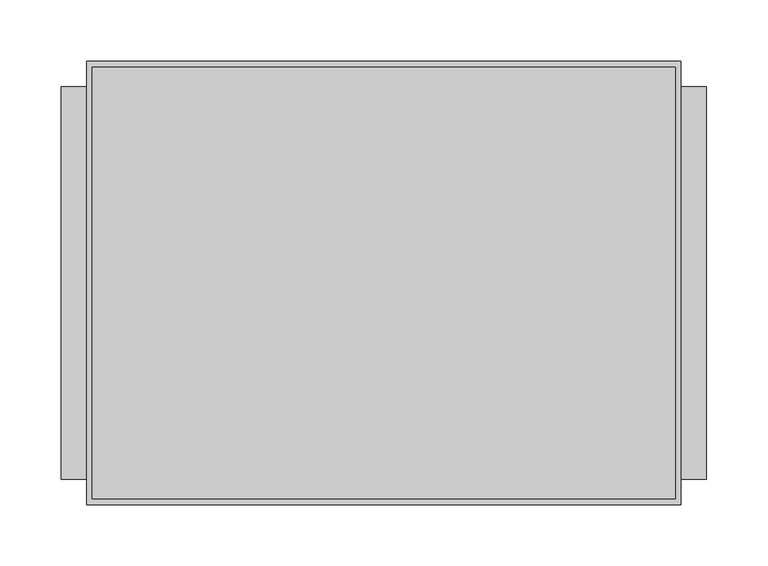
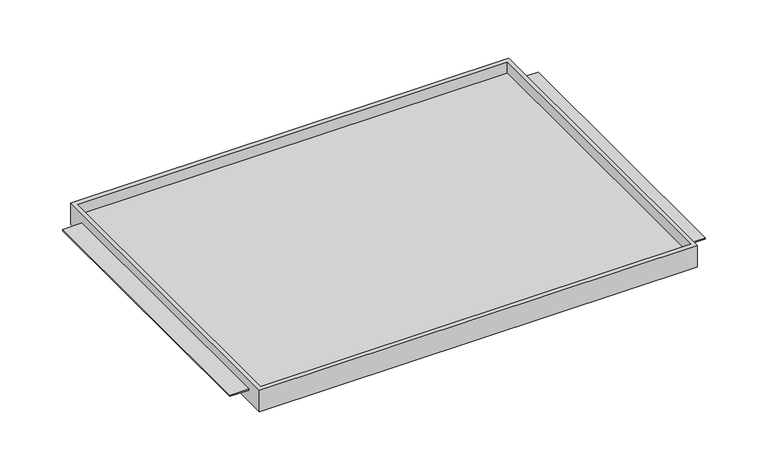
"""IFC4 building model written with IfcOpenShell, lengths in millimetres: furniture geometry."""

from ifc_helpers import new_model, si_unit, origin, place, context, project, spatial, faceted_brep, source, transform, mapped, element, save


def furniture_9bd7f3dd(model_context):
    return source(origin(), model_context, "Body", "Brep", [
        faceted_brep([(-242.7689646, -180.975, 1145.38252), (242.7689646, -180.975, 1145.38252), (242.7689646, -180.975, 1170.78252), (-242.7689646, -180.975, 1170.78252), (-242.7689646, 180.975, 1145.38252), (-242.7689646, 180.975, 1170.78252), (242.7689646, 180.975, 1170.78252), (242.7689646, 180.975, 1145.38252), (242.7689646, -160.3374879, 1159.68272), (242.7689646, 160.3374879, 1159.68272), (242.7689646, 160.3374879, 1158.08252), (242.7689646, -160.3374879, 1158.08252), (238.125, -176.2125, 1170.78252), (-238.125, -176.2125, 1170.78252), (-238.125, 175.91278, 1170.78252), (238.125, 175.91278, 1170.78252), (-242.7689646, 160.3374879, 1159.68272), (-242.7689646, -160.3374879, 1159.68272), (-242.7689646, -160.3374879, 1158.08252), (-242.7689646, 160.3374879, 1158.08252), (-238.125, -176.2125, 1158.08252), (238.125, -176.2125, 1158.08252), (238.125, 175.91278, 1158.08252), (-238.125, 175.91278, 1158.08252), (-263.525, 160.3374879, 1159.68272), (-263.525, -160.3374879, 1159.68272), (263.525, -160.3374879, 1159.68272), (263.525, 160.3374879, 1159.68272), (-263.525, -160.3374879, 1158.08252), (-263.525, 160.3374879, 1158.08252), (263.525, -160.3374879, 1158.08252), (263.525, 160.3374879, 1158.08252)], [[[0, 1, 2, 3]], [[4, 5, 6, 7]], [[1, 0, 4, 7]], [[2, 1, 7, 6], [8, 9, 10, 11]], [[3, 2, 6, 5], [12, 13, 14, 15]], [[0, 3, 5, 4], [16, 17, 18, 19]], [[20, 21, 22, 23]], [[21, 20, 13, 12]], [[22, 21, 12, 15]], [[23, 22, 15, 14]], [[20, 23, 14, 13]], [[16, 24, 25, 17]], [[26, 27, 9, 8]], [[18, 28, 29, 19]], [[30, 11, 10, 31]], [[24, 16, 19, 29]], [[25, 24, 29, 28]], [[17, 25, 28, 18]], [[27, 26, 30, 31]], [[9, 27, 31, 10]], [[26, 8, 11, 30]]]),
    ])


if __name__ == "__main__":
    model = new_model("IFC4")
    model_context = context("Model", 3, world=origin())
    ifc_project = project(units=[si_unit("LENGTHUNIT", "METRE", prefix="MILLI")], contexts=[model_context])
    site = spatial("IfcSite", under=ifc_project)
    building = spatial("IfcBuilding", under=site)
    placement = place(None, origin())
    furniture_shape = furniture_9bd7f3dd(model_context)
    element("IfcFurniture", 1, ObjectType="HermanMiller_CoStruc_CO203_CTrayShelf : 14\"D x 20\"W", at=placement, inside=building, context=model_context, shape_type="MappedRepresentation", body=[
        mapped(furniture_shape, transform((0.0, 0.0, 0.0), x_axis=(1.0, 0.0, 0.0), y_axis=(0.0, 1.0, 0.0), z_axis=(0.0, 0.0, 1.0))),
    ])
    save(model, "model.ifc")
